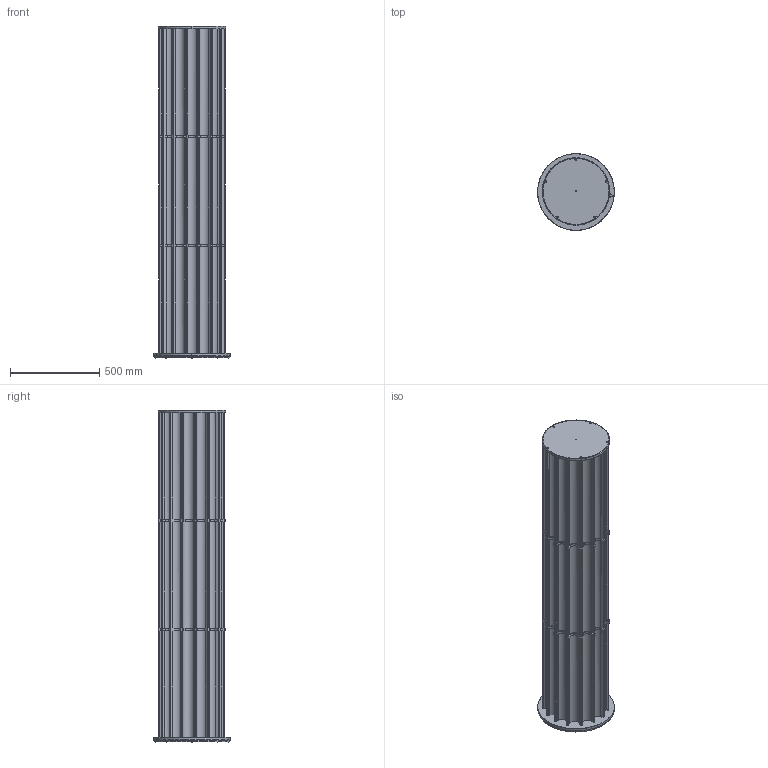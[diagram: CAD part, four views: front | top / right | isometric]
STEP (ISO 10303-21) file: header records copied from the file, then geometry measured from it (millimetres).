
FILE_DESCRIPTION(/* description */ (''),/* implementation_level */ '2;1');
FILE_NAME(/* name */ 'T148__~1',/* time_stamp */ '2024-07-03T14:44:34+02:00',/* author */ (''),/* organization */ (''),/* preprocessor_version */ 'ST-DEVELOPER v16.5',/* originating_system */ '',/* authorisation */ '');
FILE_SCHEMA (('AUTOMOTIVE_DESIGN'));
Products named in the file (1): Document
Bounding box: 429.71 x 430 x 1857.5 mm (x, y, z)
Volume: 17346345.3 mm3; surface area: 8835199.5 mm2
Topology: 132 solids, 133 shells, 4791 faces, 10994 edges, 5973 vertices
Faces by surface type: bspline 2629, plane 2162
Entity records: 154985 total; most frequent: CARTESIAN_POINT 88132, ORIENTED_EDGE 20896, EDGE_CURVE 10455, B_SPLINE_CURVE_WITH_KNOTS 7499, VERTEX_POINT 5973, EDGE_LOOP 4848, ADVANCED_FACE 4791, FACE_OUTER_BOUND 4791
